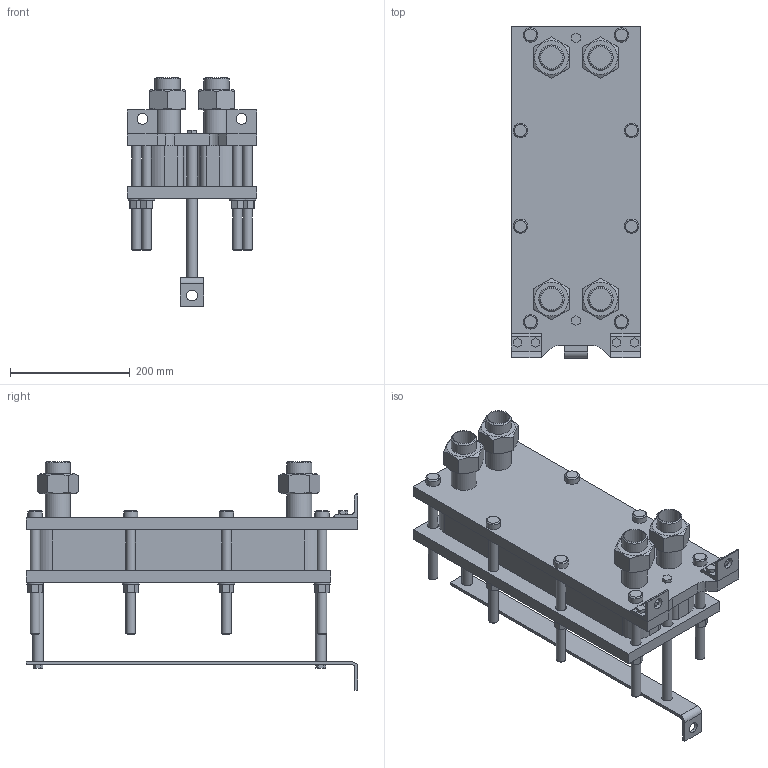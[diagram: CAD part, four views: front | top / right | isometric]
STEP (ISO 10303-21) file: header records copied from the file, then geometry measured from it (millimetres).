
FILE_DESCRIPTION(/* description */ (''),/* implementation_level */ '2;1');
FILE_NAME(/* name */ 'C:\Users\zhuro\Desktop\ENCO\TO\ЭН-004\ЭН-0,5-004-22-1.stp',/* time_stamp */ '2022-06-06T10:45:14+03:00',/* author */ ('zhuro'),/* organization */ (''),/* preprocessor_version */ 'ST-DEVELOPER v18.1',/* originating_system */ 'Autodesk Inventor 2022',/* authorisation */ '');
FILE_SCHEMA (('AUTOMOTIVE_DESIGN { 1 0 10303 214 3 1 1 }'));
Length unit declared in the file: millimetre
Products named in the file (1): ЭН-0,5-004-22-1
Bounding box: 216 x 555 x 382.6 mm (x, y, z)
Volume: 10595439.5 mm3; surface area: 1106789.1 mm2
Topology: 40 solids, 40 shells, 403 faces, 865 edges, 574 vertices
Faces by surface type: plane 272, cylinder 103, cone 28
Full cylindrical faces by diameter (mm): 10 x4, 16 x16, 18 x29, 20 x2, 24 x8, 28 x8, 36.3 x5, 42.3 x9
Entity records: 11137 total; most frequent: CARTESIAN_POINT 1939, DIRECTION 1879, ORIENTED_EDGE 1730, EDGE_CURVE 865, AXIS2_PLACEMENT_3D 658, VERTEX_POINT 574, LINE 563, VECTOR 563
